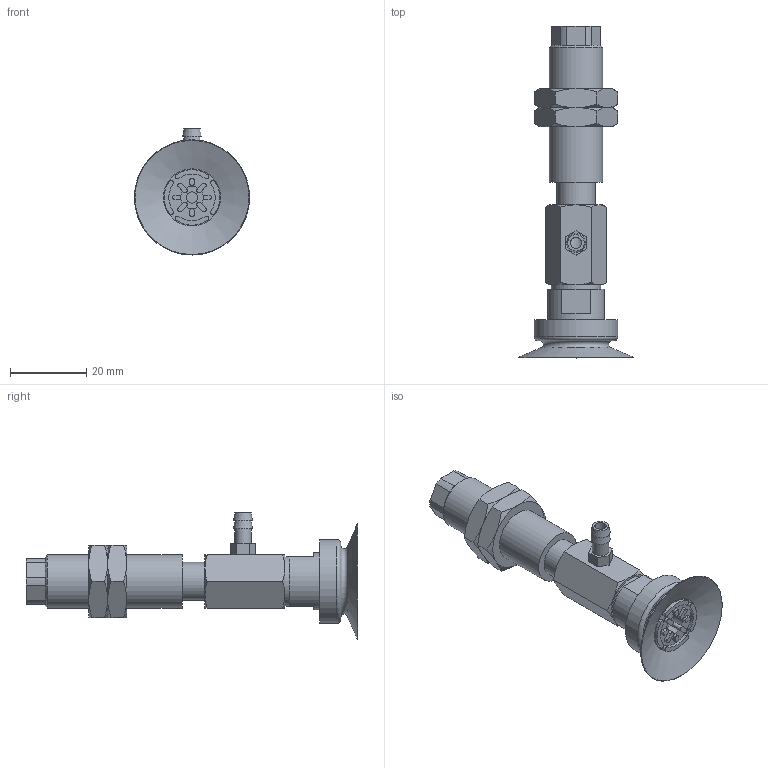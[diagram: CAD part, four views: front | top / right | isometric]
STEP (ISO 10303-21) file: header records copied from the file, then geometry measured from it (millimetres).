
FILE_DESCRIPTION(('STEP AP203'),'1');
FILE_NAME('-T.stp','2025-02-28T02:31:18',(' '),(' '),'Spatial InterOp 3D',' ',' ');
FILE_SCHEMA(('CONFIG_CONTROL_DESIGN'));
Length unit declared in the file: millimetre
Products named in the file (7): BNABPAYS-30-6-※-T; NAPAYS-30B-6--M; NAPAYS-30B-6--F; Nut-25-S; CONNECTOR-30B-6-PA; T; BPAG-30-※
Assembly tree (7 placements, depth 2):
  BNABPAYS-30-6-※-T
    NAPAYS-30B-6--M
    NAPAYS-30B-6--F
    Nut-25-S  x2
    CONNECTOR-30B-6-PA
    T
    BPAG-30-※
Bounding box: 30.3 x 87.2 x 33.15 mm (x, y, z)
Volume: 15666.8 mm3; surface area: 11973.8 mm2
Topology: 7 solids, 7 shells, 216 faces, 489 edges, 308 vertices
Faces by surface type: plane 99, cylinder 61, cone 54, torus 2
Full cylindrical faces by diameter (mm): 3 x3, 4.134 x2, 4.3 x1, 4.6 x1, 4.917 x1, 5 x2, 6 x1, 10 x2, 12.917 x2, 13 x1, 14 x1, 15 x1, 22 x1
Entity records: 5914 total; most frequent: CARTESIAN_POINT 1276, DIRECTION 930, ORIENTED_EDGE 808, EDGE_CURVE 404, AXIS2_PLACEMENT_3D 376, VERTEX_POINT 278, EDGE_LOOP 260, FACE_OUTER_BOUND 213
